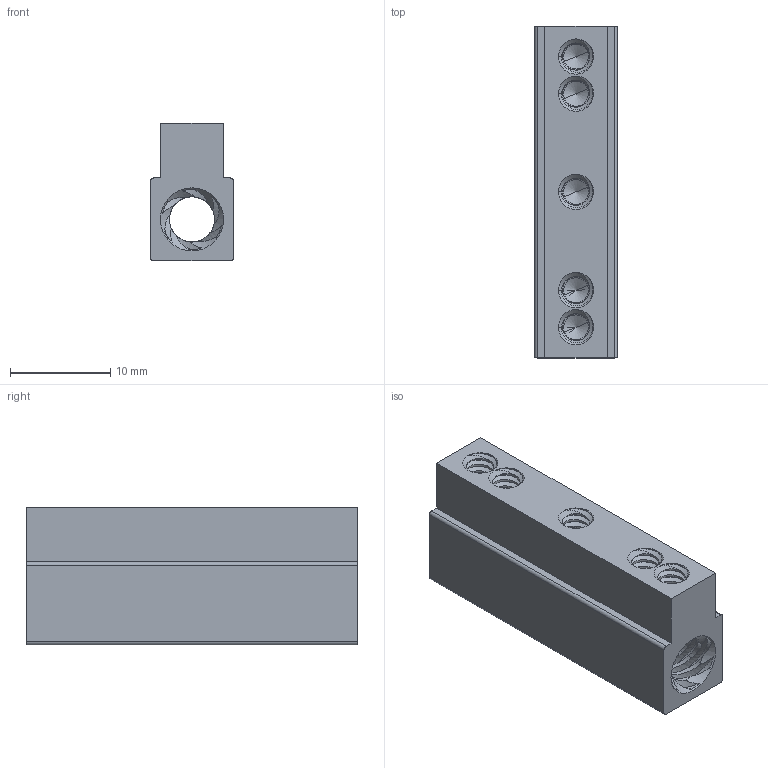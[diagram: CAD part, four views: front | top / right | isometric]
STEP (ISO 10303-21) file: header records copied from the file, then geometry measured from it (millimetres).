
FILE_DESCRIPTION (( 'STEP AP203' ), '1' );
FILE_NAME ('545308.STEP', '2018-09-25T21:34:53', ( '' ), ( '' ), 'SwSTEP 2.0', 'SolidWorks 2016', '' );
FILE_SCHEMA (( 'CONFIG_CONTROL_DESIGN' ));
Products named in the file (1): 545308
Bounding box: 8.26 x 33.02 x 13.72 mm (x, y, z)
Volume: 2283.1 mm3; surface area: 2846.2 mm2
Topology: 1 solids, 1 shells, 261 faces, 753 edges, 488 vertices
Faces by surface type: cylinder 176, cone 46, bspline 28, plane 11
Entity records: 105819 total; most frequent: CARTESIAN_POINT 100057, ORIENTED_EDGE 1494, DIRECTION 921, EDGE_CURVE 747, VERTEX_POINT 488, AXIS2_PLACEMENT_3D 346, EDGE_LOOP 269, ADVANCED_FACE 261
